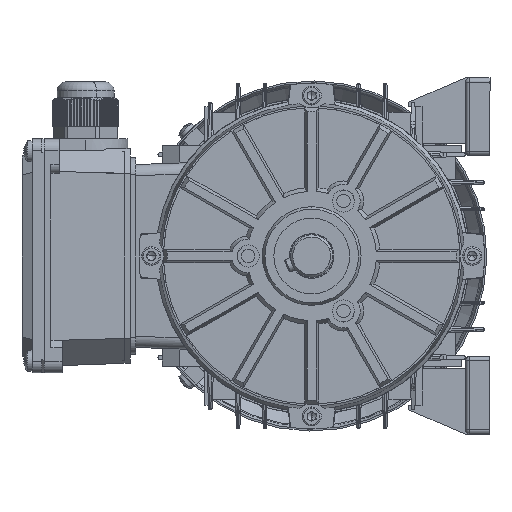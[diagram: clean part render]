
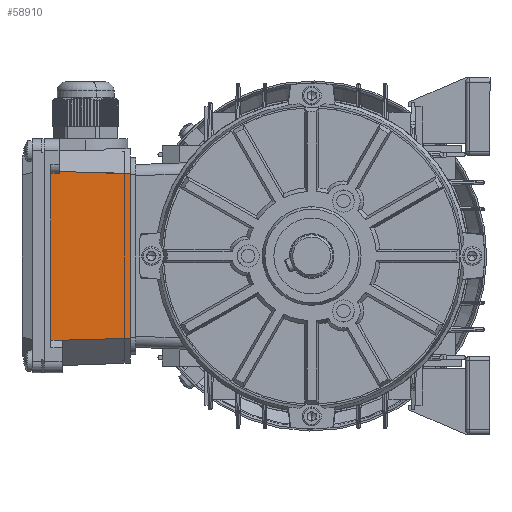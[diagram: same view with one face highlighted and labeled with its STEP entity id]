
A CAD part, left-side view. The second image highlights one B-rep face of the part: STEP entity #58910.
In plain terms, the highlighted planar face has unit normal (-0.999, -0.035, 0.001) as drawn and (-0.035, -0.001, 0.999) by its records, which use the part's own axes.
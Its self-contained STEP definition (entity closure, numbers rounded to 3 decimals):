
#307 = FACE_OUTER_BOUND ( 'NONE', #47523, .T. ) ;
#3354 = AXIS2_PLACEMENT_3D ( 'NONE', #42421, #30185, #17965 ) ;
#4456 = CARTESIAN_POINT ( 'NONE',  ( 31.875, -37.897, 49.106 ) ) ;
#5962 = CARTESIAN_POINT ( 'NONE',  ( 34.294, -37.11, 49.192 ) ) ;
#8340 = CARTESIAN_POINT ( 'NONE',  ( 31.875, -37.099, 49.107 ) ) ;
#8344 = EDGE_CURVE ( 'NONE', #105440, #63594, #67160, .T. ) ;
#8653 = VECTOR ( 'NONE', #52047, 1000. ) ;
#17965 = DIRECTION ( 'NONE',  ( -0.999, 0., -0.035 ) ) ;
#18251 = CARTESIAN_POINT ( 'NONE',  ( 33.086, -37.104, 49.15 ) ) ;
#19328 = ORIENTED_EDGE ( 'NONE', *, *, #112591, .T. ) ;
#20203 = ORIENTED_EDGE ( 'NONE', *, *, #37868, .F. ) ;
#20555 = CARTESIAN_POINT ( 'NONE',  ( 0., -37.04, 47.995 ) ) ;
#22056 = EDGE_CURVE ( 'NONE', #77902, #105440, #118975, .T. ) ;
#27319 = DIRECTION ( 'NONE',  ( -0.999, 0.027, -0.035 ) ) ;
#30185 = DIRECTION ( 'NONE',  ( 0.035, 0.001, -0.999 ) ) ;
#30475 = CARTESIAN_POINT ( 'NONE',  ( 31.875, -37.099, 49.107 ) ) ;
#31171 = ORIENTED_EDGE ( 'NONE', *, *, #22056, .F. ) ;
#31459 = CARTESIAN_POINT ( 'NONE',  ( 35.5, 37.901, 49.325 ) ) ;
#34573 = VERTEX_POINT ( 'NONE', #87057 ) ;
#37868 = EDGE_CURVE ( 'NONE', #117552, #87929, #113140, .T. ) ;
#38690 = VECTOR ( 'NONE', #76549, 1000. ) ;
#39497 = CARTESIAN_POINT ( 'NONE',  ( 40.501, -38.128, 49.407 ) ) ;
#41378 = ORIENTED_EDGE ( 'NONE', *, *, #8344, .F. ) ;
#41482 = LINE ( 'NONE', #99708, #54545 ) ;
#42421 = CARTESIAN_POINT ( 'NONE',  ( 43.553, -49.393, 49.5 ) ) ;
#42747 = DIRECTION ( 'NONE',  ( 0., -1., -0.001 ) ) ;
#47523 = EDGE_LOOP ( 'NONE', ( #31171, #59952, #90711, #94007, #59779, #20203, #19328, #41378 ) ) ;
#51739 = LINE ( 'NONE', #39497, #100877 ) ;
#52047 = DIRECTION ( 'NONE',  ( 0., -1., -0.001 ) ) ;
#53415 = CARTESIAN_POINT ( 'NONE',  ( 30.5, 37.727, 49.151 ) ) ;
#53893 = VECTOR ( 'NONE', #42747, 1000. ) ;
#54545 = VECTOR ( 'NONE', #87469, 1000. ) ;
#54965 = CARTESIAN_POINT ( 'NONE',  ( 35.5, -49.393, 49.219 ) ) ;
#57489 = PLANE ( 'NONE',  #3354 ) ;
#58910 = ADVANCED_FACE ( 'NONE', ( #307 ), #57489, .F. ) ;
#59414 = VECTOR ( 'NONE', #94558, 1000. ) ;
#59779 = ORIENTED_EDGE ( 'NONE', *, *, #98150, .F. ) ;
#59952 = ORIENTED_EDGE ( 'NONE', *, *, #69762, .F. ) ;
#63594 = VERTEX_POINT ( 'NONE', #119173 ) ;
#64275 = CARTESIAN_POINT ( 'NONE',  ( 30.5, -49.393, 49.044 ) ) ;
#67160 = LINE ( 'NONE', #54965, #53893 ) ;
#69762 = EDGE_CURVE ( 'NONE', #70245, #77902, #76493, .T. ) ;
#70245 = VERTEX_POINT ( 'NONE', #84193 ) ;
#76493 = LINE ( 'NONE', #64275, #8653 ) ;
#76549 = DIRECTION ( 'NONE',  ( 0., -1., -0.001 ) ) ;
#76893 = EDGE_CURVE ( 'NONE', #34573, #100521, #118962, .T. ) ;
#77902 = VERTEX_POINT ( 'NONE', #53415 ) ;
#84193 = CARTESIAN_POINT ( 'NONE',  ( 30.5, 37.767, 49.151 ) ) ;
#85559 = VECTOR ( 'NONE', #94545, 1000. ) ;
#87057 = CARTESIAN_POINT ( 'NONE',  ( 0., 36.95, 48.085 ) ) ;
#87469 = DIRECTION ( 'NONE',  ( 0.999, 0.027, 0.035 ) ) ;
#87929 = VERTEX_POINT ( 'NONE', #4456 ) ;
#88773 = CARTESIAN_POINT ( 'NONE',  ( 31.875, -49.393, 49.092 ) ) ;
#90711 = ORIENTED_EDGE ( 'NONE', *, *, #117490, .F. ) ;
#94007 = ORIENTED_EDGE ( 'NONE', *, *, #76893, .T. ) ;
#94545 = DIRECTION ( 'NONE',  ( 0., -1., -0.001 ) ) ;
#94558 = DIRECTION ( 'NONE',  ( 0.999, 0.035, 0.035 ) ) ;
#98150 = EDGE_CURVE ( 'NONE', #87929, #100521, #51739, .T. ) ;
#99708 = CARTESIAN_POINT ( 'NONE',  ( 40.5, 38.036, 49.5 ) ) ;
#100521 = VERTEX_POINT ( 'NONE', #20555 ) ;
#100877 = VECTOR ( 'NONE', #27319, 1000. ) ;
#105440 = VERTEX_POINT ( 'NONE', #31459 ) ;
#106700 = CARTESIAN_POINT ( 'NONE',  ( 0., 87.477, 48.147 ) ) ;
#106712 = CARTESIAN_POINT ( 'NONE',  ( 40.497, 38.076, 49.5 ) ) ;
#112591 = EDGE_CURVE ( 'NONE', #117552, #63594, #115027, .T. ) ;
#113068 = CARTESIAN_POINT ( 'NONE',  ( 35.5, -37.116, 49.234 ) ) ;
#113140 = LINE ( 'NONE', #88773, #38690 ) ;
#115027 =( BOUNDED_CURVE ( )  B_SPLINE_CURVE ( 3, ( #30475, #18251, #5962, #113068 ),
 .UNSPECIFIED., .F., .F. ) 
 B_SPLINE_CURVE_WITH_KNOTS ( ( 4, 4 ),
 ( 1.693, 1.726 ),
 .UNSPECIFIED. ) 
 CURVE ( )  GEOMETRIC_REPRESENTATION_ITEM ( )  RATIONAL_B_SPLINE_CURVE ( ( 1., 1., 1., 1. ) ) 
 REPRESENTATION_ITEM ( '' )  );
#117490 = EDGE_CURVE ( 'NONE', #34573, #70245, #41482, .T. ) ;
#117552 = VERTEX_POINT ( 'NONE', #8340 ) ;
#118962 = LINE ( 'NONE', #106700, #85559 ) ;
#118975 = LINE ( 'NONE', #106712, #59414 ) ;
#119173 = CARTESIAN_POINT ( 'NONE',  ( 35.5, -37.116, 49.234 ) ) ;
